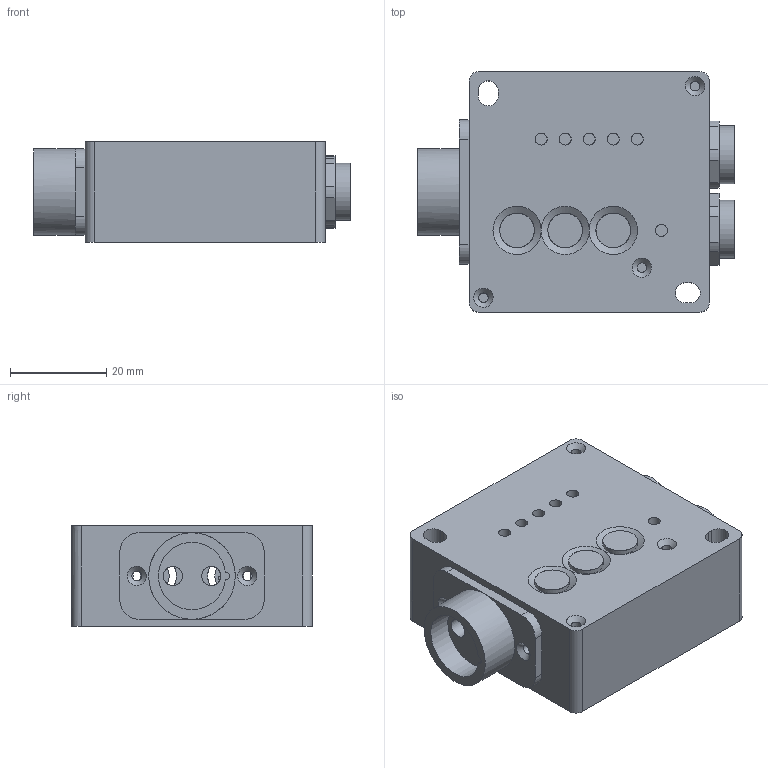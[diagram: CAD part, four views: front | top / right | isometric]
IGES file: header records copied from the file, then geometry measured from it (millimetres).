
Global section: file name: CR100.igs; native system: CAD Exchanger 2.2.1; preprocessor: CAD Exchanger 2.2.1 (www.cadexchanger.com); author: ges; date: 20110516.153102; units: millimetre
Bounding box: 65.9 x 50 x 21 mm (x, y, z)
Surface area: 19384 mm2 (no closed solid volume)
Topology: 0 solids, 0 shells, 187 faces, 898 edges, 821 vertices
Faces by surface type: revolution 101, bspline 86
